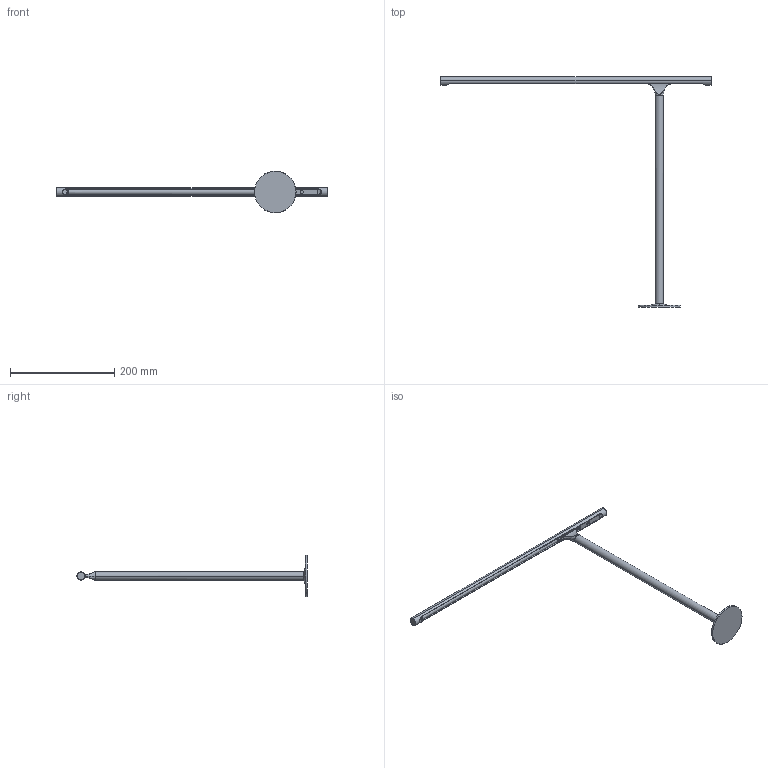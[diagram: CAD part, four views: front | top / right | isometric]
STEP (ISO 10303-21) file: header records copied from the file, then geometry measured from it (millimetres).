
FILE_DESCRIPTION (( 'STEP AP203' ), '1' );
FILE_NAME ('Gallery - Integrated Architects Lamp.STEP', '2024-03-25T03:07:02', ( '' ), ( '' ), 'SwSTEP 2.0', 'SolidWorks 2017', '' );
FILE_SCHEMA (( 'CONFIG_CONTROL_DESIGN' ));
Length unit declared in the file: millimetre
Products named in the file (1): Gallery - Integrated Architects Lamp
Bounding box: 520 x 443 x 80 mm (x, y, z)
Volume: 191340.8 mm3; surface area: 77734.3 mm2
Topology: 2 solids, 4 shells, 163 faces, 391 edges, 241 vertices
Faces by surface type: plane 57, cylinder 53, bspline 29, torus 16, cone 8
Entity records: 6825 total; most frequent: CARTESIAN_POINT 3167, ORIENTED_EDGE 782, DIRECTION 696, EDGE_CURVE 391, AXIS2_PLACEMENT_3D 265, VERTEX_POINT 241, EDGE_LOOP 168, VECTOR 166
